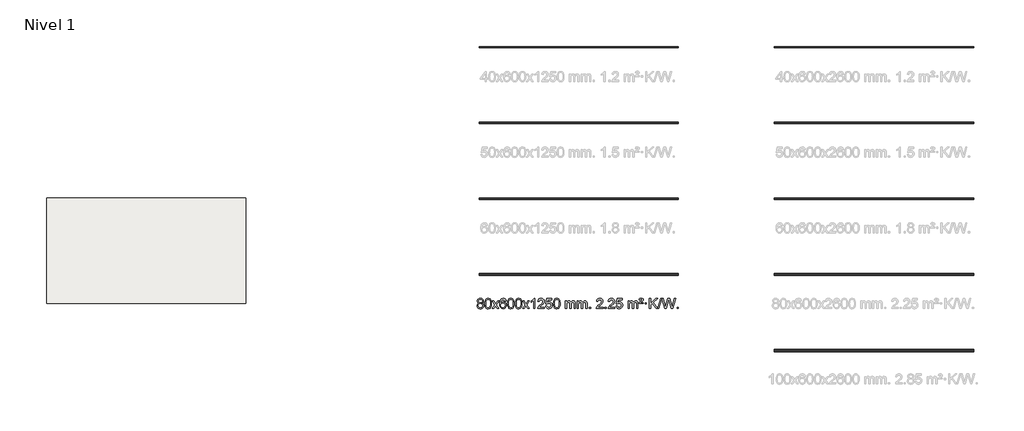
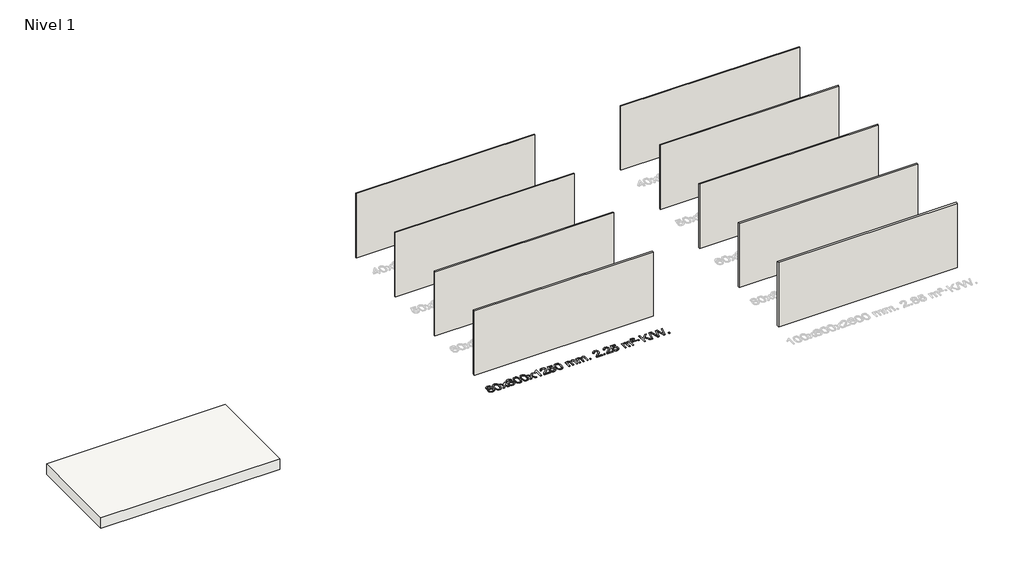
# One storey, part 1 of 9: 9 walls, 1 proxy, 1 slab.
"""IFC4 building model written with IfcOpenShell, lengths in millimetres."""

from ifc_helpers import new_model, si_unit, frame, origin, origin_with_axes, place, context, project, spatial, polyline, outline, extrude, element, save

model = new_model("IFC4")

# Units and contexts
model_context = context("Model", 3, world=origin())
ifc_project = project(units=[si_unit("LENGTHUNIT", "METRE", prefix="MILLI")], contexts=[model_context])

# Site, building, storey
site = spatial("IfcSite", under=ifc_project)
building = spatial("IfcBuilding", under=site)
storey = spatial("IfcBuildingStorey", under=building, Name="Nivel 1", Elevation=0.0)

# Proxy
placement = place(None, origin())
element("IfcBuildingElementProxy", 1, Name="Texto de modelo 1", ObjectType="Texto de modelo 1", at=placement, inside=storey, context=model_context, shape_type="SweptSolid", body=[
    extrude(outline(polyline([(-6536.8094438, -6174.2616447), (-6563.7016177, -6161.0178929), (-6582.573964, -6143.0652515), (-6593.7207885, -6120.7716026), (-6597.4363966, -6094.5048281), (-6595.4130456, -6074.0199324), (-6589.3429927, -6055.2395565), (-6579.2262378, -6038.1637006), (-6565.062781, -6022.7923645), (-6547.533204, -6010.088173), (-6527.3180883, -6001.0137504), (-6504.4174341, -5995.5690969), (-6478.8312414, -5993.7542124), (-6453.1224213, -5995.6120165), (-6430.0500888, -6001.1854287), (-6409.614244, -6010.4744491), (-6391.8148868, -6023.4790776), (-6377.3939126, -6039.1508506), (-6367.0932167, -6056.4413044), (-6360.9127992, -6075.3504389), (-6358.85266, -6095.8782543), (-6362.5192172, -6121.2989001), (-6373.5188889, -6143.2124043), (-6391.9743023, -6161.0546811), (-6418.0080848, -6174.2616447), (-6387.0937345, -6190.1909351), (-6364.5916191, -6213.6495436), (-6350.8696207, -6243.5092989), (-6346.2956212, -6278.6420295), (-6348.5642269, -6303.6947933), (-6355.3700438, -6326.6628926), (-6366.713072, -6347.5463272), (-6382.5933114, -6366.3450971), (-6402.1768963, -6381.88198), (-6424.6299607, -6392.9797536), (-6449.9525047, -6399.6384177), (-6478.1445283, -6401.8579724), (-6506.3365519, -6399.6292206), (-6531.6590959, -6392.9429654), (-6554.1121603, -6381.7992066), (-6573.6957452, -6366.1979443), (-6589.5759846, -6347.26735), (-6600.9190128, -6326.135595), (-6607.7248297, -6302.8026795), (-6609.9934354, -6277.2686033), (-6605.2354949, -6240.7747094), (-6590.9616735, -6210.7555386), (-6567.9077351, -6188.2411605), (-6536.8094438, -6174.2616447)]), holes=[polyline([(-6547.2082415, -6095.9763561), (-6542.7568694, -6117.902123), (-6529.402753, -6135.413306), (-6507.5382997, -6146.8912243), (-6477.5559171, -6150.717197), (-6448.2725103, -6146.9157497), (-6426.7391508, -6135.5114079), (-6413.495399, -6118.5888361), (-6409.0808151, -6098.232699), (-6413.6425518, -6077.1040098), (-6427.327762, -6059.629615), (-6449.1554271, -6047.8941794), (-6478.1445283, -6043.9823675), (-6507.3175705, -6047.8083402), (-6529.1084474, -6059.2862585), (-6542.683293, -6076.1107284), (-6547.2082415, -6095.9763561)]), polyline([(-6559.7652803, -6275.5027698), (-6557.6683529, -6294.7184726), (-6551.3775708, -6313.3210389), (-6539.7647625, -6329.5446349), (-6521.7017565, -6341.623427), (-6500.0702952, -6349.1282197), (-6477.7521208, -6351.6298173), (-6443.5636208, -6346.3691048), (-6429.6699441, -6339.7932141), (-6417.909983, -6330.5869672), (-6401.870328, -6306.6869002), (-6396.5237763, -6277.0723996), (-6402.0420062, -6246.9551269), (-6418.596696, -6222.5277625), (-6430.6754882, -6213.0854579), (-6444.838945, -6206.3409547), (-6479.4198526, -6200.9453521), (-6513.130106, -6206.2673783), (-6526.8674329, -6212.919911), (-6538.5262264, -6222.2334569), (-6554.4555168, -6246.1948375), (-6559.7652803, -6275.5027698)])]), origin_with_axes(), (0.0, 0.0, 1.0), 10.0),
    extrude(outline(polyline([(-6302.3459855, -6197.9041943), (-6298.6549029, -6133.5861588), (-6287.5816548, -6082.2911459), (-6269.236606, -6043.2343407), (-6257.378543, -6028.0009605), (-6243.730121, -6015.6309284), (-6228.2453547, -6006.0598651), (-6210.8782588, -5999.2233914), (-6170.4970785, -5993.7542124), (-6139.5459399, -5996.991574), (-6111.832163, -6006.7036586), (-6088.6555973, -6022.5103217), (-6071.3160926, -6044.0314184), (-6058.2194935, -6071.0830078), (-6047.7716449, -6103.4811488), (-6040.9290398, -6144.6226186), (-6038.6481714, -6197.9041943), (-6042.3024659, -6261.8543477), (-6053.2653493, -6313.0267333), (-6071.5000336, -6352.1203266), (-6083.3305054, -6367.3996922), (-6096.9697304, -6379.8341036), (-6112.4728908, -6389.4695462), (-6129.8951689, -6396.3520052), (-6170.4970785, -6401.8579724), (-6198.1618045, -6399.4667394), (-6222.6872709, -6392.2930405), (-6244.0734775, -6380.3368757), (-6262.3204245, -6363.5982449), (-6279.8316074, -6333.3399508), (-6292.3395953, -6295.6381776), (-6299.844388, -6250.4929255), (-6302.3459855, -6197.9041943)]), holes=[polyline([(-6252.1178305, -6197.8060924), (-6250.6463025, -6241.4706195), (-6246.2317185, -6276.8148822), (-6238.8740786, -6303.8388804), (-6228.5733828, -6322.5426142), (-6216.1144459, -6335.2682656), (-6202.2820829, -6344.3580165), (-6187.0762937, -6349.8118671), (-6170.4970785, -6351.6298173), (-6153.9178632, -6349.8057357), (-6138.7120741, -6344.3334911), (-6124.8797111, -6335.2130833), (-6112.4207742, -6322.4445124), (-6102.1200783, -6303.7101217), (-6094.7624384, -6276.6922549), (-6090.3478545, -6241.3909118), (-6088.8763265, -6197.8060924), (-6090.2988035, -6155.2973278), (-6094.5662347, -6120.5753989), (-6101.6786199, -6093.6403055), (-6111.6359592, -6074.4920476), (-6123.8864297, -6061.1440625), (-6137.8782082, -6051.6097875), (-6153.6112949, -6045.8892225), (-6171.0856897, -6043.9823675), (-6187.5790658, -6045.6623619), (-6202.5273375, -6050.7023452), (-6215.9305049, -6059.1023175), (-6227.7885679, -6070.8622786), (-6238.4326203, -6091.708925), (-6246.0355148, -6119.8151094), (-6250.5972516, -6155.1808319), (-6252.1178305, -6197.8060924)])]), origin_with_axes(), (0.0, 0.0, 1.0), 10.0),
    extrude(outline(polyline([(-6013.5340939, -6395.579453), (-5906.2106531, -6247.2494325), (-6007.2555745, -6100.4890419), (-5946.8248254, -6100.4890419), (-5898.0681983, -6171.122385), (-5875.3085655, -6204.4770192), (-5855.5900906, -6177.2047007), (-5800.0644348, -6100.4890419), (-5739.6336857, -6100.4890419), (-5845.7799041, -6247.2494325), (-5743.5577603, -6395.579453), (-5803.9885094, -6395.579453), (-5865.498379, -6306.4048574), (-5876.7800935, -6290.1199477), (-5953.1033448, -6395.579453), (-6013.5340939, -6395.579453)])), origin_with_axes(), (0.0, 0.0, 1.0), 10.0),
    extrude(outline(polyline([(-5454.7458687, -6100.4890419), (-5504.9740237, -6106.7675613), (-5513.0674276, -6081.874213), (-5524.0057856, -6064.8780648), (-5546.7899439, -6049.2062918), (-5574.3320426, -6043.9823675), (-5597.6802865, -6047.0235253), (-5619.6551044, -6056.1469988), (-5638.5274507, -6075.3627017), (-5653.9417063, -6101.8134171), (-5664.3527668, -6139.227016), (-5668.2155277, -6191.3313693), (-5648.0678571, -6167.8237098), (-5623.9225355, -6151.2567573), (-5597.1284635, -6141.434308), (-5569.0345418, -6138.1601582), (-5544.9014829, -6140.398107), (-5522.6323595, -6147.1119534), (-5502.2271715, -6158.3016975), (-5483.6859189, -6173.9673391), (-5468.2777947, -6193.1769106), (-5457.2719917, -6214.9984443), (-5450.6685099, -6239.4319401), (-5448.4673493, -6266.4773982), (-5452.6121531, -6302.4439945), (-5465.0465645, -6335.786366), (-5484.740514, -6364.0642287), (-5510.6639319, -6384.8372987), (-5541.6395959, -6397.602804), (-5576.4902836, -6401.8579724), (-5606.4328123, -6399.0375437), (-5633.4752046, -6390.5762579), (-5657.6174606, -6376.4741147), (-5678.8595801, -6356.7311143), (-5696.177625, -6330.5133908), (-5708.5476571, -6296.9870783), (-5715.9696764, -6256.1521768), (-5718.4436828, -6208.0086864), (-5715.6968306, -6154.0342663), (-5707.4562739, -6107.9693092), (-5693.7220127, -6069.8138149), (-5674.4940471, -6039.5677835), (-5653.6535321, -6019.5243462), (-5629.4898164, -6005.2076052), (-5602.0029, -5996.6175606), (-5571.1927829, -5993.7542124), (-5548.0591367, -5995.5261773), (-5527.1205198, -6000.8420722), (-5508.3769322, -6009.7018969), (-5491.8283738, -6022.1056515), (-5477.9224344, -6037.6364031), (-5467.1067037, -6055.8772186), (-5459.3811818, -6076.8280983), (-5454.7458687, -6100.4890419)]), holes=[polyline([(-5668.2155277, -6265.6925832), (-5665.30926, -6287.9494439), (-5656.5904567, -6309.2007605), (-5643.0523993, -6327.472233), (-5625.6883691, -6340.7895612), (-5604.7313581, -6348.9197533), (-5580.4143582, -6351.6298173), (-5547.2681904, -6346.0134855), (-5533.353054, -6338.9930708), (-5521.2098825, -6329.1644901), (-5511.359842, -6316.9262824), (-5504.3240989, -6302.6769865), (-5498.6955043, -6268.1451299), (-5504.2505225, -6234.9989621), (-5511.1942951, -6221.3781312), (-5520.9155769, -6209.725469), (-5533.0955366, -6200.3904634), (-5547.4153432, -6193.7226022), (-5582.4744974, -6188.3883133), (-5615.5716142, -6193.7226022), (-5643.248603, -6209.725469), (-5654.1716326, -6221.2248471), (-5661.9737965, -6234.3858254), (-5666.6550949, -6249.2084042), (-5668.2155277, -6265.6925832)])]), origin_with_axes(), (0.0, 0.0, 1.0), 10.0),
    extrude(outline(polyline([(-5404.5177136, -6197.9041943), (-5400.8266309, -6133.5861588), (-5389.7533828, -6082.2911459), (-5371.408334, -6043.2343407), (-5359.550271, -6028.0009605), (-5345.901849, -6015.6309284), (-5330.4170827, -6006.0598651), (-5313.0499869, -5999.2233914), (-5272.6688065, -5993.7542124), (-5241.717668, -5996.991574), (-5214.003891, -6006.7036586), (-5190.8273253, -6022.5103217), (-5173.4878206, -6044.0314184), (-5160.3912216, -6071.0830078), (-5149.9433729, -6103.4811488), (-5143.1007678, -6144.6226186), (-5140.8198994, -6197.9041943), (-5144.4741939, -6261.8543477), (-5155.4370774, -6313.0267333), (-5173.6717616, -6352.1203266), (-5185.5022334, -6367.3996922), (-5199.1414584, -6379.8341036), (-5214.6446188, -6389.4695462), (-5232.066897, -6396.3520052), (-5272.6688065, -6401.8579724), (-5300.3335326, -6399.4667394), (-5324.8589989, -6392.2930405), (-5346.2452055, -6380.3368757), (-5364.4921525, -6363.5982449), (-5382.0033355, -6333.3399508), (-5394.5113233, -6295.6381776), (-5402.016116, -6250.4929255), (-5404.5177136, -6197.9041943)]), holes=[polyline([(-5354.2895585, -6197.8060924), (-5352.8180305, -6241.4706195), (-5348.4034466, -6276.8148822), (-5341.0458067, -6303.8388804), (-5330.7451108, -6322.5426142), (-5318.2861739, -6335.2682656), (-5304.4538109, -6344.3580165), (-5289.2480218, -6349.8118671), (-5272.6688065, -6351.6298173), (-5256.0895913, -6349.8057357), (-5240.8838021, -6344.3334911), (-5227.0514391, -6335.2130833), (-5214.5925022, -6322.4445124), (-5204.2918063, -6303.7101217), (-5196.9341664, -6276.6922549), (-5192.5195825, -6241.3909118), (-5191.0480545, -6197.8060924), (-5192.4705316, -6155.2973278), (-5196.7379627, -6120.5753989), (-5203.8503479, -6093.6403055), (-5213.8076873, -6074.4920476), (-5226.0581577, -6061.1440625), (-5240.0499363, -6051.6097875), (-5255.7830229, -6045.8892225), (-5273.2574177, -6043.9823675), (-5289.7507938, -6045.6623619), (-5304.6990656, -6050.7023452), (-5318.1022329, -6059.1023175), (-5329.9602959, -6070.8622786), (-5340.6043483, -6091.708925), (-5348.2072429, -6119.8151094), (-5352.7689796, -6155.1808319), (-5354.2895585, -6197.8060924)])]), origin_with_axes(), (0.0, 0.0, 1.0), 10.0),
    extrude(outline(polyline([(-5096.8702638, -6197.9041943), (-5093.1791811, -6133.5861588), (-5082.105933, -6082.2911459), (-5063.7608842, -6043.2343407), (-5051.9028212, -6028.0009605), (-5038.2543992, -6015.6309284), (-5022.7696329, -6006.0598651), (-5005.402537, -5999.2233914), (-4965.0213567, -5993.7542124), (-4934.0702182, -5996.991574), (-4906.3564412, -6006.7036586), (-4883.1798755, -6022.5103217), (-4865.8403708, -6044.0314184), (-4852.7437718, -6071.0830078), (-4842.2959231, -6103.4811488), (-4835.453318, -6144.6226186), (-4833.1724496, -6197.9041943), (-4836.8267441, -6261.8543477), (-4847.7896275, -6313.0267333), (-4866.0243118, -6352.1203266), (-4877.8547836, -6367.3996922), (-4891.4940086, -6379.8341036), (-4906.997169, -6389.4695462), (-4924.4194471, -6396.3520052), (-4965.0213567, -6401.8579724), (-4992.6860827, -6399.4667394), (-5017.2115491, -6392.2930405), (-5038.5977557, -6380.3368757), (-5056.8447027, -6363.5982449), (-5074.3558856, -6333.3399508), (-5086.8638735, -6295.6381776), (-5094.3686662, -6250.4929255), (-5096.8702638, -6197.9041943)]), holes=[polyline([(-5046.6421087, -6197.8060924), (-5045.1705807, -6241.4706195), (-5040.7559968, -6276.8148822), (-5033.3983568, -6303.8388804), (-5023.097661, -6322.5426142), (-5010.6387241, -6335.2682656), (-4996.8063611, -6344.3580165), (-4981.6005719, -6349.8118671), (-4965.0213567, -6351.6298173), (-4948.4421414, -6349.8057357), (-4933.2363523, -6344.3334911), (-4919.4039893, -6335.2130833), (-4906.9450524, -6322.4445124), (-4896.6443565, -6303.7101217), (-4889.2867166, -6276.6922549), (-4884.8721327, -6241.3909118), (-4883.4006047, -6197.8060924), (-4884.8230817, -6155.2973278), (-4889.0905129, -6120.5753989), (-4896.2028981, -6093.6403055), (-4906.1602375, -6074.4920476), (-4918.4107079, -6061.1440625), (-4932.4024864, -6051.6097875), (-4948.1355731, -6045.8892225), (-4965.6099679, -6043.9823675), (-4982.103344, -6045.6623619), (-4997.0516157, -6050.7023452), (-5010.4547831, -6059.1023175), (-5022.3128461, -6070.8622786), (-5032.9568985, -6091.708925), (-5040.559793, -6119.8151094), (-5045.1215298, -6155.1808319), (-5046.6421087, -6197.8060924)])]), origin_with_axes(), (0.0, 0.0, 1.0), 10.0),
    extrude(outline(polyline([(-4808.0583721, -6395.579453), (-4700.7349313, -6247.2494325), (-4801.7798527, -6100.4890419), (-4741.3491036, -6100.4890419), (-4692.5924765, -6171.122385), (-4669.8328437, -6204.4770192), (-4650.1143688, -6177.2047007), (-4594.588713, -6100.4890419), (-4534.1579639, -6100.4890419), (-4640.3041823, -6247.2494325), (-4538.0820385, -6395.579453), (-4598.5127876, -6395.579453), (-4660.0226572, -6306.4048574), (-4671.3043717, -6290.1199477), (-4747.627623, -6395.579453), (-4808.0583721, -6395.579453)])), origin_with_axes(), (0.0, 0.0, 1.0), 10.0),
    extrude(outline(polyline([(-4318.3338601, -6395.579453), (-4368.5620152, -6395.579453), (-4368.5620152, -6082.4382987), (-4389.5312889, -6099.3976587), (-4416.1414199, -6116.3324932), (-4469.0183253, -6141.6918254), (-4469.0183253, -6094.2105225), (-4429.5691127, -6072.7507395), (-4395.3928753, -6047.219729), (-4368.4516506, -6020.0700378), (-4350.7074757, -5993.7542124), (-4318.3338601, -5993.7542124), (-4318.3338601, -6395.579453)])), origin_with_axes(), (0.0, 0.0, 1.0), 10.0),
    extrude(outline(polyline([(-3941.622697, -6345.3512979), (-3941.622697, -6395.579453), (-4205.3205112, -6395.579453), (-4204.2168652, -6377.8965918), (-4199.9249086, -6360.9494945), (-4187.5395481, -6333.8856424), (-4169.4152284, -6307.6311307), (-4143.1975049, -6280.1503456), (-4106.5319327, -6249.4076736), (-4052.3306521, -6201.2641831), (-4019.8098837, -6165.7267824), (-4003.5494996, -6136.884834), (-3998.1293715, -6108.8277005), (-4003.2429312, -6083.6768347), (-4018.5836104, -6062.7688747), (-4042.1648463, -6048.6789943), (-4072.0000761, -6043.9823675), (-4103.3313594, -6048.5686297), (-4127.6728847, -6062.3274163), (-4143.3814459, -6084.1796068), (-4148.8138367, -6113.0460807), (-4199.0419918, -6106.7675613), (-4194.722444, -6080.838012), (-4186.8650977, -6058.1826125), (-4175.4699529, -6038.8013627), (-4160.5370096, -6022.6942627), (-4142.4096243, -6010.0329907), (-4121.4311535, -6000.989225), (-4097.6015973, -5995.5629655), (-4070.9209556, -5993.7542124), (-4044.0011906, -5995.7653006), (-4020.0428757, -6001.7985654), (-3999.0460108, -6011.8540066), (-3981.010596, -6025.9316242), (-3966.5252424, -6042.9890861), (-3956.1785613, -6061.9840598), (-3949.9705526, -6082.9165453), (-3947.9012164, -6105.7865427), (-3950.1330339, -6129.8092369), (-3956.8284862, -6153.4149983), (-3968.7110746, -6177.4254299), (-3986.5043004, -6202.6621347), (-4014.8680023, -6232.7916701), (-4058.4620187, -6271.4805933), (-4116.2440174, -6319.795762), (-4138.9055483, -6345.3512979), (-3941.622697, -6345.3512979)])), origin_with_axes(), (0.0, 0.0, 1.0), 10.0),
    extrude(outline(polyline([(-3891.394542, -6288.8446235), (-3841.1663869, -6282.5661041), (-3831.9448115, -6312.7201649), (-3815.8561056, -6334.3148381), (-3792.9738455, -6347.3010725), (-3763.3716076, -6351.6298173), (-3744.2417439, -6350.1245668), (-3727.368223, -6345.6088153), (-3712.7510451, -6338.0825628), (-3700.3902101, -6327.5458094), (-3690.5616294, -6314.519721), (-3683.5412147, -6299.5254641), (-3677.9248829, -6263.6324441), (-3683.1855954, -6229.8363514), (-3689.7614861, -6215.9181493), (-3698.967733, -6203.9865099), (-3710.834993, -6194.4154467), (-3725.393923, -6187.5789729), (-3762.5867927, -6182.1097939), (-3786.9528435, -6184.2925604), (-3806.6835812, -6190.8408599), (-3822.4411933, -6200.8717757), (-3834.8878675, -6213.5023908), (-3885.1160226, -6207.2238715), (-3841.1663869, -6000.0327318), (-3646.532286, -6000.0327318), (-3646.532286, -6050.2608869), (-3800.5522146, -6050.2608869), (-3822.0365231, -6160.919791), (-3804.3107423, -6148.2155994), (-3786.1557659, -6139.1411769), (-3767.5715937, -6133.6965234), (-3748.558226, -6131.8816388), (-3724.097139, -6134.1318504), (-3701.6287461, -6140.882485), (-3681.1530474, -6152.1335427), (-3662.6700428, -6167.8850234), (-3647.3692175, -6187.1743027), (-3636.4400566, -6209.038756), (-3629.88256, -6233.4783832), (-3627.6967278, -6260.4931844), (-3629.6648965, -6286.5147042), (-3635.5694025, -6310.7213394), (-3645.4102459, -6333.1130902), (-3659.1874266, -6353.6899565), (-3680.0585985, -6374.7634634), (-3704.4123865, -6389.8159684), (-3732.2487908, -6398.8474714), (-3763.5678114, -6401.8579724), (-3789.4881636, -6399.9235262), (-3812.9007869, -6394.1201877), (-3833.8056813, -6384.447957), (-3852.2028467, -6370.9068338), (-3867.5098034, -6354.1712688), (-3879.1440715, -6334.915712), (-3887.105651, -6313.1401636), (-3891.394542, -6288.8446235)])), origin_with_axes(), (0.0, 0.0, 1.0), 10.0),
    extrude(outline(polyline([(-3583.7470921, -6197.9041943), (-3580.0560094, -6133.5861588), (-3568.9827614, -6082.2911459), (-3550.6377126, -6043.2343407), (-3538.7796496, -6028.0009605), (-3525.1312276, -6015.6309284), (-3509.6464612, -6006.0598651), (-3492.2793654, -5999.2233914), (-3451.8981851, -5993.7542124), (-3420.9470465, -5996.991574), (-3393.2332696, -6006.7036586), (-3370.0567039, -6022.5103217), (-3352.7171992, -6044.0314184), (-3339.6206001, -6071.0830078), (-3329.1727515, -6103.4811488), (-3322.3301463, -6144.6226186), (-3320.049278, -6197.9041943), (-3323.7035725, -6261.8543477), (-3334.6664559, -6313.0267333), (-3352.9011401, -6352.1203266), (-3364.731612, -6367.3996922), (-3378.3708369, -6379.8341036), (-3393.8739974, -6389.4695462), (-3411.2962755, -6396.3520052), (-3451.8981851, -6401.8579724), (-3479.5629111, -6399.4667394), (-3504.0883774, -6392.2930405), (-3525.4745841, -6380.3368757), (-3543.721531, -6363.5982449), (-3561.232714, -6333.3399508), (-3573.7407019, -6295.6381776), (-3581.2454946, -6250.4929255), (-3583.7470921, -6197.9041943)]), holes=[polyline([(-3533.518937, -6197.8060924), (-3532.0474091, -6241.4706195), (-3527.6328251, -6276.8148822), (-3520.2751852, -6303.8388804), (-3509.9744894, -6322.5426142), (-3497.5155525, -6335.2682656), (-3483.6831894, -6344.3580165), (-3468.4774003, -6349.8118671), (-3451.8981851, -6351.6298173), (-3435.3189698, -6349.8057357), (-3420.1131807, -6344.3334911), (-3406.2808176, -6335.2130833), (-3393.8218807, -6322.4445124), (-3383.5211849, -6303.7101217), (-3376.163545, -6276.6922549), (-3371.748961, -6241.3909118), (-3370.2774331, -6197.8060924), (-3371.6999101, -6155.2973278), (-3375.9673412, -6120.5753989), (-3383.0797265, -6093.6403055), (-3393.0370658, -6074.4920476), (-3405.2875363, -6061.1440625), (-3419.2793148, -6051.6097875), (-3435.0124015, -6045.8892225), (-3452.4867962, -6043.9823675), (-3468.9801724, -6045.6623619), (-3483.9284441, -6050.7023452), (-3497.3316115, -6059.1023175), (-3509.1896744, -6070.8622786), (-3519.8337268, -6091.708925), (-3527.4366214, -6119.8151094), (-3531.9983581, -6155.1808319), (-3533.518937, -6197.8060924)])]), origin_with_axes(), (0.0, 0.0, 1.0), 10.0),
    extrude(outline(polyline([(-3106.5796189, -6395.579453), (-3106.5796189, -6100.4890419), (-3056.3514638, -6100.4890419), (-3056.3514638, -6149.0494653), (-3041.2437766, -6126.7435537), (-3021.8196072, -6109.2691589), (-2998.7411434, -6097.9751816), (-2972.6705727, -6094.2105225), (-2944.7360665, -6098.048758), (-2922.3443157, -6109.5634645), (-2905.6179477, -6127.9943524), (-2894.6795897, -6152.5811324), (-2876.3713291, -6127.0439906), (-2855.4878945, -6108.803175), (-2832.0292859, -6097.8586857), (-2805.9955034, -6094.2105225), (-2785.8876867, -6095.7280358), (-2768.2385479, -6100.2805755), (-2753.0480872, -6107.8681416), (-2740.3163045, -6118.4907342), (-2730.2516663, -6132.2709806), (-2723.0626389, -6149.3315082), (-2718.7492225, -6169.6723168), (-2717.3114171, -6193.2934066), (-2717.3114171, -6395.579453), (-2767.5395722, -6395.579453), (-2767.5395722, -6214.875817), (-2768.7045318, -6189.8230531), (-2772.1994108, -6172.9372695), (-2778.7477103, -6161.3735121), (-2789.0729316, -6152.2868268), (-2802.3534716, -6146.4007149), (-2817.7677272, -6144.4386776), (-2844.9787321, -6149.4663982), (-2867.1620165, -6164.54956), (-2875.7673895, -6176.1194488), (-2881.9140845, -6190.7182326), (-2886.8314405, -6229.0024856), (-2886.8314405, -6395.579453), (-2937.0595955, -6395.579453), (-2937.0595955, -6209.2840106), (-2939.9658633, -6180.8835206), (-2948.6846666, -6160.6254854), (-2964.0253458, -6148.4853796), (-2986.7972413, -6144.4386776), (-3006.1478342, -6147.1364789), (-3023.9778483, -6155.2298828), (-3038.6931281, -6168.5226856), (-3048.6995183, -6186.8186835), (-3054.4384775, -6212.2025411), (-3056.3514638, -6246.7589232), (-3056.3514638, -6395.579453), (-3106.5796189, -6395.579453)])), origin_with_axes(), (0.0, 0.0, 1.0), 10.0),
    extrude(outline(polyline([(-2641.9691845, -6395.579453), (-2641.9691845, -6100.4890419), (-2591.7410294, -6100.4890419), (-2591.7410294, -6149.0494653), (-2576.6333421, -6126.7435537), (-2557.2091728, -6109.2691589), (-2534.130709, -6097.9751816), (-2508.0601382, -6094.2105225), (-2480.1256321, -6098.048758), (-2457.7338813, -6109.5634645), (-2441.0075132, -6127.9943524), (-2430.0691552, -6152.5811324), (-2411.7608946, -6127.0439906), (-2390.87746, -6108.803175), (-2367.4188515, -6097.8586857), (-2341.3850689, -6094.2105225), (-2321.2772522, -6095.7280358), (-2303.6281135, -6100.2805755), (-2288.4376528, -6107.8681416), (-2275.7058701, -6118.4907342), (-2265.6412318, -6132.2709806), (-2258.4522045, -6149.3315082), (-2254.1387881, -6169.6723168), (-2252.7009826, -6193.2934066), (-2252.7009826, -6395.579453), (-2302.9291377, -6395.579453), (-2302.9291377, -6214.875817), (-2304.0940974, -6189.8230531), (-2307.5889763, -6172.9372695), (-2314.1372758, -6161.3735121), (-2324.4624972, -6152.2868268), (-2337.7430372, -6146.4007149), (-2353.1572928, -6144.4386776), (-2380.3682977, -6149.4663982), (-2402.551582, -6164.54956), (-2411.156955, -6176.1194488), (-2417.30365, -6190.7182326), (-2422.221006, -6229.0024856), (-2422.221006, -6395.579453), (-2472.4491611, -6395.579453), (-2472.4491611, -6209.2840106), (-2475.3554289, -6180.8835206), (-2484.0742321, -6160.6254854), (-2499.4149113, -6148.4853796), (-2522.1868068, -6144.4386776), (-2541.5373998, -6147.1364789), (-2559.3674138, -6155.2298828), (-2574.0826936, -6168.5226856), (-2584.0890839, -6186.8186835), (-2589.828043, -6212.2025411), (-2591.7410294, -6246.7589232), (-2591.7410294, -6395.579453), (-2641.9691845, -6395.579453)])), origin_with_axes(), (0.0, 0.0, 1.0), 10.0),
    extrude(outline(polyline([(-2164.8017113, -6395.579453), (-2164.8017113, -6345.3512979), (-2114.5735562, -6345.3512979), (-2114.5735562, -6395.579453), (-2164.8017113, -6395.579453)])), origin_with_axes(), (0.0, 0.0, 1.0), 10.0),
    extrude(outline(polyline([(-1618.5705248, -6345.3512979), (-1618.5705248, -6395.579453), (-1882.268339, -6395.579453), (-1881.164693, -6377.8965918), (-1876.8727364, -6360.9494945), (-1864.4873759, -6333.8856424), (-1846.3630562, -6307.6311307), (-1820.1453327, -6280.1503456), (-1783.4797605, -6249.4076736), (-1729.2784799, -6201.2641831), (-1696.7577115, -6165.7267824), (-1680.4973273, -6136.884834), (-1675.0771993, -6108.8277005), (-1680.190759, -6083.6768347), (-1695.5314382, -6062.7688747), (-1719.1126741, -6048.6789943), (-1748.9479039, -6043.9823675), (-1780.2791872, -6048.5686297), (-1804.6207125, -6062.3274163), (-1820.3292737, -6084.1796068), (-1825.7616645, -6113.0460807), (-1875.9898196, -6106.7675613), (-1871.6702718, -6080.838012), (-1863.8129255, -6058.1826125), (-1852.4177807, -6038.8013627), (-1837.4848374, -6022.6942627), (-1819.3574521, -6010.0329907), (-1798.3789813, -6000.989225), (-1774.5494251, -5995.5629655), (-1747.8687834, -5993.7542124), (-1720.9490184, -5995.7653006), (-1696.9907035, -6001.7985654), (-1675.9938386, -6011.8540066), (-1657.9584238, -6025.9316242), (-1643.4730702, -6042.9890861), (-1633.1263891, -6061.9840598), (-1626.9183804, -6082.9165453), (-1624.8490442, -6105.7865427), (-1627.0808616, -6129.8092369), (-1633.776314, -6153.4149983), (-1645.6589024, -6177.4254299), (-1663.4521282, -6202.6621347), (-1691.8158301, -6232.7916701), (-1735.4098465, -6271.4805933), (-1793.1918452, -6319.795762), (-1815.8533761, -6345.3512979), (-1618.5705248, -6345.3512979)])), origin_with_axes(), (0.0, 0.0, 1.0), 10.0),
    extrude(outline(polyline([(-1543.2282922, -6395.579453), (-1543.2282922, -6345.3512979), (-1493.0001371, -6345.3512979), (-1493.0001371, -6395.579453), (-1543.2282922, -6395.579453)])), origin_with_axes(), (0.0, 0.0, 1.0), 10.0),
    extrude(outline(polyline([(-1153.9600904, -6345.3512979), (-1153.9600904, -6395.579453), (-1417.6579045, -6395.579453), (-1416.5542585, -6377.8965918), (-1412.2623019, -6360.9494945), (-1399.8769414, -6333.8856424), (-1381.7526218, -6307.6311307), (-1355.5348983, -6280.1503456), (-1318.8693261, -6249.4076736), (-1264.6680455, -6201.2641831), (-1232.1472771, -6165.7267824), (-1215.8868929, -6136.884834), (-1210.4667648, -6108.8277005), (-1215.5803246, -6083.6768347), (-1230.9210038, -6062.7688747), (-1254.5022397, -6048.6789943), (-1284.3374695, -6043.9823675), (-1315.6687527, -6048.5686297), (-1340.0102781, -6062.3274163), (-1355.7188393, -6084.1796068), (-1361.1512301, -6113.0460807), (-1411.3793851, -6106.7675613), (-1407.0598374, -6080.838012), (-1399.2024911, -6058.1826125), (-1387.8073463, -6038.8013627), (-1372.874403, -6022.6942627), (-1354.7470177, -6010.0329907), (-1333.7685469, -6000.989225), (-1309.9389907, -5995.5629655), (-1283.258349, -5993.7542124), (-1256.338584, -5995.7653006), (-1232.380269, -6001.7985654), (-1211.3834041, -6011.8540066), (-1193.3479893, -6025.9316242), (-1178.8626358, -6042.9890861), (-1168.5159547, -6061.9840598), (-1162.307946, -6082.9165453), (-1160.2386098, -6105.7865427), (-1162.4704272, -6129.8092369), (-1169.1658795, -6153.4149983), (-1181.048468, -6177.4254299), (-1198.8416938, -6202.6621347), (-1227.2053956, -6232.7916701), (-1270.799412, -6271.4805933), (-1328.5814108, -6319.795762), (-1351.2429417, -6345.3512979), (-1153.9600904, -6345.3512979)])), origin_with_axes(), (0.0, 0.0, 1.0), 10.0),
    extrude(outline(polyline([(-1103.7319353, -6288.8446235), (-1053.5037802, -6282.5661041), (-1044.2822049, -6312.7201649), (-1028.193499, -6334.3148381), (-1005.3112389, -6347.3010725), (-975.709001, -6351.6298173), (-956.5791372, -6350.1245668), (-939.7056164, -6345.6088153), (-925.0884384, -6338.0825628), (-912.7276034, -6327.5458094), (-902.8990228, -6314.519721), (-895.878608, -6299.5254641), (-890.2622762, -6263.6324441), (-895.5229888, -6229.8363514), (-902.0988794, -6215.9181493), (-911.3051264, -6203.9865099), (-923.1723864, -6194.4154467), (-937.7313163, -6187.5789729), (-974.9241861, -6182.1097939), (-999.2902369, -6184.2925604), (-1019.0209745, -6190.8408599), (-1034.7785867, -6200.8717757), (-1047.2252608, -6213.5023908), (-1097.4534159, -6207.2238715), (-1053.5037802, -6000.0327318), (-858.8696793, -6000.0327318), (-858.8696793, -6050.2608869), (-1012.889608, -6050.2608869), (-1034.3739165, -6160.919791), (-1016.6481357, -6148.2155994), (-998.4931592, -6139.1411769), (-979.9089871, -6133.6965234), (-960.8956193, -6131.8816388), (-936.4345323, -6134.1318504), (-913.9661395, -6140.882485), (-893.4904407, -6152.1335427), (-875.0074362, -6167.8850234), (-859.7066109, -6187.1743027), (-848.7774499, -6209.038756), (-842.2199533, -6233.4783832), (-840.0341212, -6260.4931844), (-842.0022898, -6286.5147042), (-847.9067959, -6310.7213394), (-857.7476392, -6333.1130902), (-871.5248199, -6353.6899565), (-892.3959918, -6374.7634634), (-916.7497799, -6389.8159684), (-944.5861842, -6398.8474714), (-975.9052047, -6401.8579724), (-1001.825557, -6399.9235262), (-1025.2381803, -6394.1201877), (-1046.1430746, -6384.447957), (-1064.5402401, -6370.9068338), (-1079.8471968, -6354.1712688), (-1091.4814649, -6334.915712), (-1099.4430444, -6313.1401636), (-1103.7319353, -6288.8446235)])), origin_with_axes(), (0.0, 0.0, 1.0), 10.0),
    extrude(outline(polyline([(-626.5644621, -6395.579453), (-626.5644621, -6100.4890419), (-576.336307, -6100.4890419), (-576.336307, -6149.0494653), (-561.2286197, -6126.7435537), (-541.8044504, -6109.2691589), (-518.7259866, -6097.9751816), (-492.6554158, -6094.2105225), (-464.7209097, -6098.048758), (-442.3291589, -6109.5634645), (-425.6027909, -6127.9943524), (-414.6644329, -6152.5811324), (-396.3561722, -6127.0439906), (-375.4727377, -6108.803175), (-352.0141291, -6097.8586857), (-325.9803466, -6094.2105225), (-305.8725298, -6095.7280358), (-288.2233911, -6100.2805755), (-273.0329304, -6107.8681416), (-260.3011477, -6118.4907342), (-250.2365094, -6132.2709806), (-243.0474821, -6149.3315082), (-238.7340657, -6169.6723168), (-237.2962603, -6193.2934066), (-237.2962603, -6395.579453), (-287.5244153, -6395.579453), (-287.5244153, -6214.875817), (-288.689375, -6189.8230531), (-292.1842539, -6172.9372695), (-298.7325535, -6161.3735121), (-309.0577748, -6152.2868268), (-322.3383148, -6146.4007149), (-337.7525704, -6144.4386776), (-364.9635753, -6149.4663982), (-387.1468596, -6164.54956), (-395.7522326, -6176.1194488), (-401.8989276, -6190.7182326), (-406.8162836, -6229.0024856), (-406.8162836, -6395.579453), (-457.0444387, -6395.579453), (-457.0444387, -6209.2840106), (-459.9507065, -6180.8835206), (-468.6695098, -6160.6254854), (-484.010189, -6148.4853796), (-506.7820845, -6144.4386776), (-526.1326774, -6147.1364789), (-543.9626914, -6155.2298828), (-558.6779713, -6168.5226856), (-568.6843615, -6186.8186835), (-574.4233206, -6212.2025411), (-576.336307, -6246.7589232), (-576.336307, -6395.579453), (-626.5644621, -6395.579453)])), origin_with_axes(), (0.0, 0.0, 1.0), 10.0),
    extrude(outline(polyline([(-193.3466246, -6194.6668327), (-189.5206518, -6178.8479069), (-181.1819933, -6162.9799302), (-159.6731593, -6137.8413272), (-127.7164766, -6110.1030247), (-83.5706372, -6072.726214), (-76.4337265, -6061.1992448), (-74.0547563, -6049.3779701), (-75.9432172, -6037.2869152), (-81.6085999, -6027.5012541), (-90.977328, -6021.026531), (-103.9758252, -6018.8682899), (-116.4102366, -6020.4869707), (-125.26393, -6025.343013), (-131.6896022, -6034.8098431), (-136.8399501, -6050.2608869), (-187.0681052, -6043.9823675), (-176.2278491, -6018.7701881), (-159.5995829, -6001.2099542), (-135.834406, -5990.9092583), (-103.5834178, -5987.475693), (-67.8007624, -5991.6082341), (-43.0545668, -6004.0058573), (-28.6335926, -6022.3386434), (-23.8266012, -6044.2766731), (-27.9223541, -6067.1834586), (-40.2096127, -6088.8149199), (-60.737428, -6108.6314968), (-97.2067965, -6136.6886303), (-122.8113834, -6163.2742358), (-23.8266012, -6163.2742358), (-23.8266012, -6194.6668327), (-193.3466246, -6194.6668327)])), origin_with_axes(), (0.0, 0.0, 1.0), 10.0),
    extrude(outline(polyline([(51.5156314, -6219.7809102), (51.5156314, -6169.5527552), (101.7437865, -6169.5527552), (101.7437865, -6219.7809102), (51.5156314, -6219.7809102)])), origin_with_axes(), (0.0, 0.0, 1.0), 10.0),
    extrude(outline(polyline([(492.3854144, -6395.579453), (338.954097, -6192.9009991), (271.2638099, -6257.4520265), (271.2638099, -6395.579453), (221.0356548, -6395.579453), (221.0356548, -5993.7542124), (271.2638099, -5993.7542124), (271.2638099, -6190.4484525), (477.2777272, -5993.7542124), (547.5186628, -5993.7542124), (374.5650741, -6158.9577537), (549.218684, -6389.5349332), (660.5320117, -5993.7542124), (705.8550735, -5993.7542124), (592.8417246, -6395.579453), (553.7971822, -6395.579453), (547.5186628, -6395.579453), (492.3854144, -6395.579453)])), origin_with_axes(), (0.0, 0.0, 1.0), 10.0),
    extrude(outline(polyline([(820.3399504, -6395.579453), (710.7601668, -5993.7542124), (762.5579517, -5993.7542124), (826.1279605, -6257.844434), (845.7483335, -6339.3670841), (866.7421327, -6267.2622131), (946.4008474, -5993.7542124), (1021.056367, -5993.7542124), (1078.9364675, -6192.0180823), (1103.731714, -6265.5944814), (1122.0031864, -6339.3670841), (1141.0349483, -6260.1988788), (1205.1935683, -5993.7542124), (1256.9913532, -5993.7542124), (1147.3134677, -6395.579453), (1093.6517474, -6395.579453), (997.3157155, -6085.5775584), (983.87576, -6042.3146358), (968.7680727, -6094.4067263), (880.9669032, -6395.579453), (820.3399504, -6395.579453)])), origin_with_axes(), (0.0, 0.0, 1.0), 10.0),
    extrude(outline(polyline([(1313.4980277, -6395.579453), (1313.4980277, -6345.3512979), (1363.7261827, -6345.3512979), (1363.7261827, -6395.579453), (1313.4980277, -6395.579453)])), origin_with_axes(), (0.0, 0.0, 1.0), 10.0),
])

# Slab
element("IfcSlab", 2, ObjectType="Aislamiento bajo losa de cimentación, Ursa XPS de Ursa. Poliestireno extrusionado URSA XPS N-V L, 90x600x1250 mm.", at=placement, inside=storey, context=model_context, shape_type="SweptSolid", body=[
    extrude(outline(polyline([(-15769.5892022, -2020.2851318), (-15769.5892022, -6187.1000163), (-23669.5892022, -6187.1000163), (-23669.5892022, -2020.2851318), (-15769.5892022, -2020.2851318)])), frame((0.0, 0.0, -490.0), z_axis=(0.0, 0.0, 1.0), x_axis=(1.0, 0.0, 0.0)), (0.0, 0.0, 1.0), 490.0),
])

# Walls
element("IfcWall", 3, ObjectType="Panel de poliestireno extruido, URSA XPS N-W E de URSA. 40x600x1250 mm. 1.2 m²·K/W. De superficie lisa y mecanizado lateral machihembrado. En panel.", at=placement, inside=storey, context=model_context, shape_type="SweptSolid", body=[
    extrude(outline(polyline([(1368.7582768, 3960.3831431), (-6531.2417232, 3960.3831431), (-6531.2417232, 4000.3831431), (1368.7582768, 4000.3831431), (1368.7582768, 3960.3831431)])), origin_with_axes(), (0.0, 0.0, 1.0), 3000.0),
])
element("IfcWall", 4, ObjectType="Panel de poliestireno extruido, URSA XPS N-W E de URSA. 50x600x1250 mm. 1.5 m²·K/W. De superficie lisa y mecanizado lateral machihembrado. En panel.", at=placement, inside=storey, context=model_context, shape_type="SweptSolid", body=[
    extrude(outline(polyline([(1368.7582768, 950.3831431), (-6531.2417232, 950.3831431), (-6531.2417232, 1000.3831431), (1368.7582768, 1000.3831431), (1368.7582768, 950.3831431)])), origin_with_axes(), (0.0, 0.0, 1.0), 3000.0),
])
element("IfcWall", 5, ObjectType="Panel de poliestireno extruido, URSA XPS N-W E de URSA. 60x600x1250 mm. 1.75 m²·K/W. De superficie lisa y mecanizado lateral machihembrado. En panel.", at=placement, inside=storey, context=model_context, shape_type="SweptSolid", body=[
    extrude(outline(polyline([(1368.7582768, -2063.6168569), (-6531.2417232, -2063.6168569), (-6531.2417232, -2003.6168569), (1368.7582768, -2003.6168569), (1368.7582768, -2063.6168569)])), origin_with_axes(), (0.0, 0.0, 1.0), 3000.0),
])
element("IfcWall", 6, ObjectType="Panel de poliestireno extruido, URSA XPS N-W E de URSA. 80x600x1250 mm. 2.25 m²·K/W. De superficie lisa y mecanizado lateral machihembrado. En panel.", at=placement, inside=storey, context=model_context, shape_type="SweptSolid", body=[
    extrude(outline(polyline([(1368.7582768, -5087.6168569), (-6531.2417232, -5087.6168569), (-6531.2417232, -5007.6168569), (1368.7582768, -5007.6168569), (1368.7582768, -5087.6168569)])), origin_with_axes(), (0.0, 0.0, 1.0), 3000.0),
])
element("IfcWall", 7, ObjectType="Panel de poliestireno extruido, URSA XPS N-W E de URSA. 40x600x2600 mm. 1.2 m²·K/W. De superficie lisa y mecanizado lateral machihembrado. En panel.", at=placement, inside=storey, context=model_context, shape_type="SweptSolid", body=[
    extrude(outline(polyline([(13068.7582768, 3960.3831431), (5168.7582768, 3960.3831431), (5168.7582768, 4000.3831431), (13068.7582768, 4000.3831431), (13068.7582768, 3960.3831431)])), origin_with_axes(), (0.0, 0.0, 1.0), 3000.0),
])
element("IfcWall", 8, ObjectType="Panel de poliestireno extruido, URSA XPS N-W E de URSA. 50x600x2600 mm. 1.5 m²·K/W. De superficie lisa y mecanizado lateral machihembrado. En panel.", at=placement, inside=storey, context=model_context, shape_type="SweptSolid", body=[
    extrude(outline(polyline([(13068.7582768, 950.3831431), (5168.7582768, 950.3831431), (5168.7582768, 1000.3831431), (13068.7582768, 1000.3831431), (13068.7582768, 950.3831431)])), origin_with_axes(), (0.0, 0.0, 1.0), 3000.0),
])
element("IfcWall", 9, ObjectType="Panel de poliestireno extruido, URSA XPS N-W E de URSA. 60x600x2600 mm. 1.75 m²·K/W. De superficie lisa y mecanizado lateral machihembrado. En panel.", at=placement, inside=storey, context=model_context, shape_type="SweptSolid", body=[
    extrude(outline(polyline([(13068.7582768, -2063.6168569), (5168.7582768, -2063.6168569), (5168.7582768, -2003.6168569), (13068.7582768, -2003.6168569), (13068.7582768, -2063.6168569)])), origin_with_axes(), (0.0, 0.0, 1.0), 3000.0),
])
element("IfcWall", 10, ObjectType="Panel de poliestireno extruido, URSA XPS N-W E de URSA. 80x600x2600 mm. 2.25 m²·K/W. De superficie lisa y mecanizado lateral machihembrado. En panel.", at=placement, inside=storey, context=model_context, shape_type="SweptSolid", body=[
    extrude(outline(polyline([(13068.7582768, -5087.6168569), (5168.7582768, -5087.6168569), (5168.7582768, -5007.6168569), (13068.7582768, -5007.6168569), (13068.7582768, -5087.6168569)])), origin_with_axes(), (0.0, 0.0, 1.0), 3000.0),
])
element("IfcWall", 11, ObjectType="Panel de poliestireno extruido, URSA XPS N-W E de URSA. 100x600x2600 mm. 2.85 m²·K/W. De superficie lisa y mecanizado lateral machihembrado. En panel.", at=placement, inside=storey, context=model_context, shape_type="SweptSolid", body=[
    extrude(outline(polyline([(13068.7582768, -8111.6168569), (5168.7582768, -8111.6168569), (5168.7582768, -8011.6168569), (13068.7582768, -8011.6168569), (13068.7582768, -8111.6168569)])), origin_with_axes(), (0.0, 0.0, 1.0), 3000.0),
])

save(model, "model.ifc")
